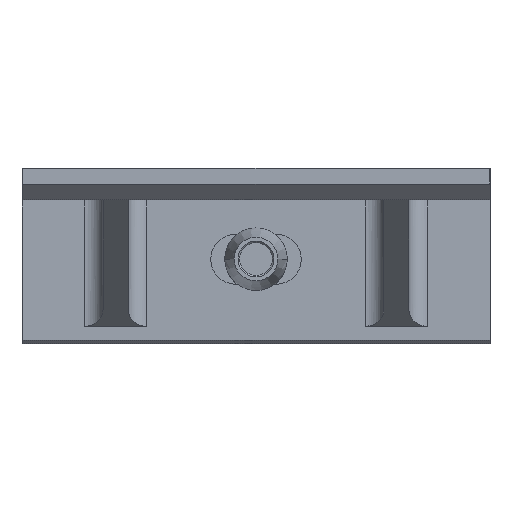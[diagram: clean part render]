
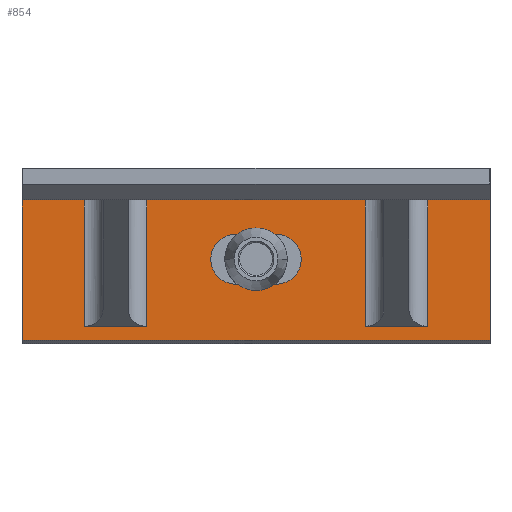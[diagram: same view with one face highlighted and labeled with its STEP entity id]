
A CAD part, top view. The second image highlights one B-rep face of the part: STEP entity #854.
In plain terms, the highlighted planar face has unit normal (0, 0, 1).
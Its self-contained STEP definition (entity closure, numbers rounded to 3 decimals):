
#68 = CARTESIAN_POINT ( 'NONE',  ( 6.5, 0., -80. ) ) ;
#78 = ORIENTED_EDGE ( 'NONE', *, *, #5950, .F. ) ;
#144 = ORIENTED_EDGE ( 'NONE', *, *, #5329, .F. ) ;
#285 = LINE ( 'NONE', #3121, #2457 ) ;
#578 = DIRECTION ( 'NONE',  ( 0., 0., 1. ) ) ;
#591 = DIRECTION ( 'NONE',  ( 1., 0., 0. ) ) ;
#703 = VERTEX_POINT ( 'NONE', #6323 ) ;
#718 = AXIS2_PLACEMENT_3D ( 'NONE', #7685, #578, #5487 ) ;
#854 = ADVANCED_FACE ( 'NONE', ( #4531, #7394 ), #5263, .F. ) ;
#990 = DIRECTION ( 'NONE',  ( -1., 0., 0. ) ) ;
#1087 = CARTESIAN_POINT ( 'NONE',  ( 35., 19., -80. ) ) ;
#1134 = VERTEX_POINT ( 'NONE', #6220 ) ;
#1155 = ORIENTED_EDGE ( 'NONE', *, *, #7135, .F. ) ;
#1163 = EDGE_CURVE ( 'NONE', #8461, #1705, #7066, .T. ) ;
#1181 = EDGE_CURVE ( 'NONE', #8207, #8199, #8417, .T. ) ;
#1271 = LINE ( 'NONE', #4775, #1855 ) ;
#1326 = CARTESIAN_POINT ( 'NONE',  ( 35., -21.5, -80. ) ) ;
#1389 = EDGE_LOOP ( 'NONE', ( #78, #8302, #1155, #144 ) ) ;
#1471 = CARTESIAN_POINT ( 'NONE',  ( -35., -21.5, -80. ) ) ;
#1614 = CIRCLE ( 'NONE', #5488, 8. ) ;
#1697 = LINE ( 'NONE', #1087, #7365 ) ;
#1705 = VERTEX_POINT ( 'NONE', #8945 ) ;
#1754 = EDGE_CURVE ( 'NONE', #2566, #703, #285, .T. ) ;
#1821 = VERTEX_POINT ( 'NONE', #8785 ) ;
#1839 = CARTESIAN_POINT ( 'NONE',  ( -6.5, -8., -80. ) ) ;
#1855 = VECTOR ( 'NONE', #7638, 1000. ) ;
#1933 = LINE ( 'NONE', #1839, #2442 ) ;
#2014 = DIRECTION ( 'NONE',  ( -1., 0., 0. ) ) ;
#2077 = VECTOR ( 'NONE', #7351, 1000. ) ;
#2199 = ORIENTED_EDGE ( 'NONE', *, *, #5685, .T. ) ;
#2226 = CARTESIAN_POINT ( 'NONE',  ( -75., -21.5, -80. ) ) ;
#2399 = CARTESIAN_POINT ( 'NONE',  ( 55., -27., -80. ) ) ;
#2402 = ORIENTED_EDGE ( 'NONE', *, *, #1181, .T. ) ;
#2415 = ORIENTED_EDGE ( 'NONE', *, *, #3085, .T. ) ;
#2442 = VECTOR ( 'NONE', #5444, 1000. ) ;
#2457 = VECTOR ( 'NONE', #3076, 1000. ) ;
#2458 = VECTOR ( 'NONE', #2014, 1000. ) ;
#2462 = ORIENTED_EDGE ( 'NONE', *, *, #7052, .T. ) ;
#2566 = VERTEX_POINT ( 'NONE', #5867 ) ;
#2679 = VECTOR ( 'NONE', #8771, 1000. ) ;
#2754 = ORIENTED_EDGE ( 'NONE', *, *, #1754, .T. ) ;
#2798 = CARTESIAN_POINT ( 'NONE',  ( -75., -27., -80. ) ) ;
#2899 = DIRECTION ( 'NONE',  ( 0., -1., 0. ) ) ;
#2922 = EDGE_LOOP ( 'NONE', ( #2402, #4586, #7995, #8335, #4012, #4669, #2415, #2754, #4682, #2199, #3186, #2462 ) ) ;
#2943 = VERTEX_POINT ( 'NONE', #6617 ) ;
#3019 = EDGE_CURVE ( 'NONE', #7705, #1705, #7471, .T. ) ;
#3036 = CARTESIAN_POINT ( 'NONE',  ( 6.5, -8., -80. ) ) ;
#3076 = DIRECTION ( 'NONE',  ( 0., 1., 0. ) ) ;
#3080 = CARTESIAN_POINT ( 'NONE',  ( 35., 19., -80. ) ) ;
#3085 = EDGE_CURVE ( 'NONE', #8461, #2566, #3425, .T. ) ;
#3102 = CARTESIAN_POINT ( 'NONE',  ( -75., 19., -80. ) ) ;
#3121 = CARTESIAN_POINT ( 'NONE',  ( 75., -27., -80. ) ) ;
#3186 = ORIENTED_EDGE ( 'NONE', *, *, #7475, .T. ) ;
#3319 = CARTESIAN_POINT ( 'NONE',  ( -75., 19., -80. ) ) ;
#3425 = LINE ( 'NONE', #5403, #3569 ) ;
#3454 = VECTOR ( 'NONE', #4421, 1000. ) ;
#3515 = DIRECTION ( 'NONE',  ( 0., 1., 0. ) ) ;
#3569 = VECTOR ( 'NONE', #591, 1000. ) ;
#3606 = LINE ( 'NONE', #7889, #8552 ) ;
#3613 = CARTESIAN_POINT ( 'NONE',  ( -6.5, 8., -80. ) ) ;
#3633 = VERTEX_POINT ( 'NONE', #7810 ) ;
#3852 = DIRECTION ( 'NONE',  ( 0., -1., 0. ) ) ;
#3886 = LINE ( 'NONE', #7411, #7605 ) ;
#3946 = DIRECTION ( 'NONE',  ( 0., 1., 0. ) ) ;
#3991 = CARTESIAN_POINT ( 'NONE',  ( -75., 19., -80. ) ) ;
#4012 = ORIENTED_EDGE ( 'NONE', *, *, #3019, .T. ) ;
#4059 = EDGE_CURVE ( 'NONE', #4434, #2943, #4286, .T. ) ;
#4103 = CARTESIAN_POINT ( 'NONE',  ( 6.5, 8., -80. ) ) ;
#4251 = AXIS2_PLACEMENT_3D ( 'NONE', #8506, #5612, #5515 ) ;
#4262 = EDGE_CURVE ( 'NONE', #2943, #7705, #3606, .T. ) ;
#4286 = LINE ( 'NONE', #2226, #3454 ) ;
#4421 = DIRECTION ( 'NONE',  ( -1., 0., 0. ) ) ;
#4434 = VERTEX_POINT ( 'NONE', #6398 ) ;
#4531 = FACE_BOUND ( 'NONE', #1389, .T. ) ;
#4586 = ORIENTED_EDGE ( 'NONE', *, *, #5098, .T. ) ;
#4669 = ORIENTED_EDGE ( 'NONE', *, *, #1163, .F. ) ;
#4682 = ORIENTED_EDGE ( 'NONE', *, *, #5938, .T. ) ;
#4701 = VECTOR ( 'NONE', #8465, 1000. ) ;
#4775 = CARTESIAN_POINT ( 'NONE',  ( -75., -21.5, -80. ) ) ;
#4848 = VERTEX_POINT ( 'NONE', #4103 ) ;
#4961 = LINE ( 'NONE', #1471, #6755 ) ;
#5098 = EDGE_CURVE ( 'NONE', #8199, #4434, #4961, .T. ) ;
#5262 = VERTEX_POINT ( 'NONE', #3036 ) ;
#5263 = PLANE ( 'NONE',  #4251 ) ;
#5329 = EDGE_CURVE ( 'NONE', #8164, #1134, #6377, .T. ) ;
#5403 = CARTESIAN_POINT ( 'NONE',  ( -75., -26., -80. ) ) ;
#5414 = CARTESIAN_POINT ( 'NONE',  ( -55., 19., -80. ) ) ;
#5444 = DIRECTION ( 'NONE',  ( 1., 0., 0. ) ) ;
#5487 = DIRECTION ( 'NONE',  ( 0., -1., 0. ) ) ;
#5488 = AXIS2_PLACEMENT_3D ( 'NONE', #68, #7347, #2899 ) ;
#5515 = DIRECTION ( 'NONE',  ( 0., 1., 0. ) ) ;
#5612 = DIRECTION ( 'NONE',  ( 0., 0., -1. ) ) ;
#5685 = EDGE_CURVE ( 'NONE', #3633, #1821, #7515, .T. ) ;
#5759 = VERTEX_POINT ( 'NONE', #1326 ) ;
#5835 = DIRECTION ( 'NONE',  ( 0., -1., 0. ) ) ;
#5867 = CARTESIAN_POINT ( 'NONE',  ( 75., -26., -80. ) ) ;
#5938 = EDGE_CURVE ( 'NONE', #703, #3633, #7454, .T. ) ;
#5950 = EDGE_CURVE ( 'NONE', #4848, #8164, #3886, .T. ) ;
#6220 = CARTESIAN_POINT ( 'NONE',  ( -6.5, -8., -80. ) ) ;
#6323 = CARTESIAN_POINT ( 'NONE',  ( 75., 19., -80. ) ) ;
#6377 = CIRCLE ( 'NONE', #718, 8. ) ;
#6398 = CARTESIAN_POINT ( 'NONE',  ( -35., -21.5, -80. ) ) ;
#6617 = CARTESIAN_POINT ( 'NONE',  ( -55., -21.5, -80. ) ) ;
#6654 = CARTESIAN_POINT ( 'NONE',  ( -35., 19., -80. ) ) ;
#6755 = VECTOR ( 'NONE', #5835, 1000. ) ;
#7052 = EDGE_CURVE ( 'NONE', #5759, #8207, #1697, .T. ) ;
#7066 = LINE ( 'NONE', #2798, #4701 ) ;
#7135 = EDGE_CURVE ( 'NONE', #1134, #5262, #1933, .T. ) ;
#7347 = DIRECTION ( 'NONE',  ( 0., 0., 1. ) ) ;
#7351 = DIRECTION ( 'NONE',  ( -1., 0., 0. ) ) ;
#7365 = VECTOR ( 'NONE', #3946, 1000. ) ;
#7394 = FACE_OUTER_BOUND ( 'NONE', #2922, .T. ) ;
#7411 = CARTESIAN_POINT ( 'NONE',  ( 6.5, 8., -80. ) ) ;
#7454 = LINE ( 'NONE', #3991, #2077 ) ;
#7471 = LINE ( 'NONE', #3102, #2679 ) ;
#7475 = EDGE_CURVE ( 'NONE', #1821, #5759, #1271, .T. ) ;
#7515 = LINE ( 'NONE', #2399, #8481 ) ;
#7605 = VECTOR ( 'NONE', #990, 1000. ) ;
#7638 = DIRECTION ( 'NONE',  ( -1., 0., 0. ) ) ;
#7685 = CARTESIAN_POINT ( 'NONE',  ( -6.5, 0., -80. ) ) ;
#7705 = VERTEX_POINT ( 'NONE', #5414 ) ;
#7810 = CARTESIAN_POINT ( 'NONE',  ( 55., 19., -80. ) ) ;
#7889 = CARTESIAN_POINT ( 'NONE',  ( -55., -27., -80. ) ) ;
#7995 = ORIENTED_EDGE ( 'NONE', *, *, #4059, .T. ) ;
#8164 = VERTEX_POINT ( 'NONE', #3613 ) ;
#8199 = VERTEX_POINT ( 'NONE', #6654 ) ;
#8207 = VERTEX_POINT ( 'NONE', #3080 ) ;
#8302 = ORIENTED_EDGE ( 'NONE', *, *, #9216, .F. ) ;
#8335 = ORIENTED_EDGE ( 'NONE', *, *, #4262, .T. ) ;
#8417 = LINE ( 'NONE', #3319, #2458 ) ;
#8461 = VERTEX_POINT ( 'NONE', #8693 ) ;
#8465 = DIRECTION ( 'NONE',  ( 0., 1., 0. ) ) ;
#8481 = VECTOR ( 'NONE', #3852, 1000. ) ;
#8506 = CARTESIAN_POINT ( 'NONE',  ( -75., -27., -80. ) ) ;
#8552 = VECTOR ( 'NONE', #3515, 1000. ) ;
#8693 = CARTESIAN_POINT ( 'NONE',  ( -75., -26., -80. ) ) ;
#8771 = DIRECTION ( 'NONE',  ( -1., 0., 0. ) ) ;
#8785 = CARTESIAN_POINT ( 'NONE',  ( 55., -21.5, -80. ) ) ;
#8945 = CARTESIAN_POINT ( 'NONE',  ( -75., 19., -80. ) ) ;
#9216 = EDGE_CURVE ( 'NONE', #5262, #4848, #1614, .T. ) ;
